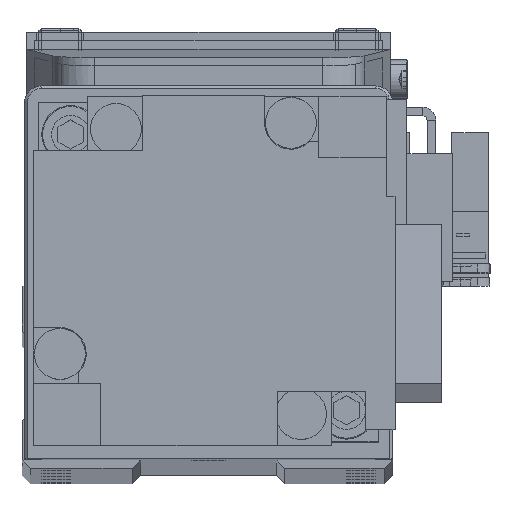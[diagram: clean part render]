
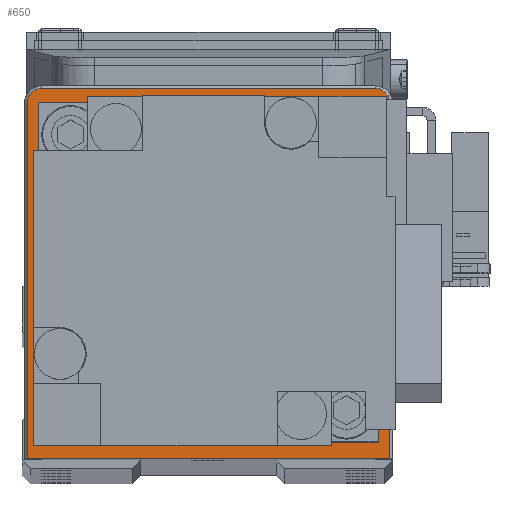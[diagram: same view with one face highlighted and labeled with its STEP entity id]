
A CAD part, top view. The second image highlights one B-rep face of the part: STEP entity #650.
In plain terms, the highlighted planar face has unit normal (0, 0, 1).
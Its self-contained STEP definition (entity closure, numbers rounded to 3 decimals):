
#650 = ADVANCED_FACE ( 'NONE', ( #10486, #15271 ), #26040, .T. ) ;
#654 = DIRECTION ( 'NONE',  ( 0., 1., 0. ) ) ;
#661 = VERTEX_POINT ( 'NONE', #5162 ) ;
#1106 = CARTESIAN_POINT ( 'NONE',  ( -21.7, -22., 26.5 ) ) ;
#1513 = VERTEX_POINT ( 'NONE', #23658 ) ;
#1629 = EDGE_CURVE ( 'NONE', #661, #5317, #31264, .T. ) ;
#1910 = VERTEX_POINT ( 'NONE', #19938 ) ;
#2035 = EDGE_LOOP ( 'NONE', ( #34198, #10287 ) ) ;
#2484 = ORIENTED_EDGE ( 'NONE', *, *, #34949, .T. ) ;
#2516 = DIRECTION ( 'NONE',  ( 1., 0., 0. ) ) ;
#2667 = AXIS2_PLACEMENT_3D ( 'NONE', #32806, #32982, #17083 ) ;
#3046 = ORIENTED_EDGE ( 'NONE', *, *, #17243, .T. ) ;
#4067 = EDGE_CURVE ( 'NONE', #14643, #30946, #25514, .T. ) ;
#4735 = CARTESIAN_POINT ( 'NONE',  ( -19.7, 21.7, 26.5 ) ) ;
#5162 = CARTESIAN_POINT ( 'NONE',  ( 19.7, 21.7, 26.5 ) ) ;
#5292 = DIRECTION ( 'NONE',  ( 0., 0., 1. ) ) ;
#5317 = VERTEX_POINT ( 'NONE', #30647 ) ;
#6248 = LINE ( 'NONE', #1106, #31252 ) ;
#6606 = VECTOR ( 'NONE', #654, 1000. ) ;
#6980 = EDGE_LOOP ( 'NONE', ( #2484, #24164, #12068, #8547, #11037, #3046 ) ) ;
#8547 = ORIENTED_EDGE ( 'NONE', *, *, #1629, .T. ) ;
#9988 = CARTESIAN_POINT ( 'NONE',  ( -19.7, 20., 26.5 ) ) ;
#10269 = EDGE_CURVE ( 'NONE', #11978, #1910, #14640, .T. ) ;
#10287 = ORIENTED_EDGE ( 'NONE', *, *, #4067, .F. ) ;
#10486 = FACE_OUTER_BOUND ( 'NONE', #6980, .T. ) ;
#10723 = EDGE_CURVE ( 'NONE', #30946, #14643, #14013, .T. ) ;
#11037 = ORIENTED_EDGE ( 'NONE', *, *, #16176, .T. ) ;
#11753 = CARTESIAN_POINT ( 'NONE',  ( 10., 0., 26.5 ) ) ;
#11978 = VERTEX_POINT ( 'NONE', #20235 ) ;
#12024 = CIRCLE ( 'NONE', #13722, 1.7 ) ;
#12068 = ORIENTED_EDGE ( 'NONE', *, *, #32195, .T. ) ;
#12395 = CARTESIAN_POINT ( 'NONE',  ( 0., 0., 26.5 ) ) ;
#12481 = CARTESIAN_POINT ( 'NONE',  ( -10., 0., 26.5 ) ) ;
#12892 = DIRECTION ( 'NONE',  ( -1., 0., 0. ) ) ;
#13710 = AXIS2_PLACEMENT_3D ( 'NONE', #12395, #23172, #20695 ) ;
#13722 = AXIS2_PLACEMENT_3D ( 'NONE', #9988, #18142, #26071 ) ;
#14013 = CIRCLE ( 'NONE', #2667, 10. ) ;
#14640 = LINE ( 'NONE', #24885, #6606 ) ;
#14643 = VERTEX_POINT ( 'NONE', #11753 ) ;
#14919 = DIRECTION ( 'NONE',  ( 1., 0., 0. ) ) ;
#15271 = FACE_BOUND ( 'NONE', #2035, .T. ) ;
#16108 = DIRECTION ( 'NONE',  ( 1., 0., 0. ) ) ;
#16176 = EDGE_CURVE ( 'NONE', #5317, #26721, #12024, .T. ) ;
#17083 = DIRECTION ( 'NONE',  ( 1., 0., 0. ) ) ;
#17243 = EDGE_CURVE ( 'NONE', #26721, #1513, #23563, .T. ) ;
#17578 = CARTESIAN_POINT ( 'NONE',  ( -21.4, -22., 26.5 ) ) ;
#18142 = DIRECTION ( 'NONE',  ( 0., 0., 1. ) ) ;
#18623 = CARTESIAN_POINT ( 'NONE',  ( 0., 0., 26.5 ) ) ;
#19938 = CARTESIAN_POINT ( 'NONE',  ( 21.4, 20., 26.5 ) ) ;
#20235 = CARTESIAN_POINT ( 'NONE',  ( 21.4, -22., 26.5 ) ) ;
#20695 = DIRECTION ( 'NONE',  ( 1., 0., 0. ) ) ;
#21530 = CIRCLE ( 'NONE', #30568, 1.7 ) ;
#21595 = AXIS2_PLACEMENT_3D ( 'NONE', #18623, #23393, #2516 ) ;
#23172 = DIRECTION ( 'NONE',  ( 0., 0., 1. ) ) ;
#23337 = VECTOR ( 'NONE', #25505, 1000. ) ;
#23393 = DIRECTION ( 'NONE',  ( 0., 0., 1. ) ) ;
#23563 = LINE ( 'NONE', #17578, #23337 ) ;
#23658 = CARTESIAN_POINT ( 'NONE',  ( -21.4, -22., 26.5 ) ) ;
#24164 = ORIENTED_EDGE ( 'NONE', *, *, #10269, .T. ) ;
#24885 = CARTESIAN_POINT ( 'NONE',  ( 21.4, 20., 26.5 ) ) ;
#24938 = CARTESIAN_POINT ( 'NONE',  ( -21.4, 20., 26.5 ) ) ;
#25505 = DIRECTION ( 'NONE',  ( 0., -1., 0. ) ) ;
#25514 = CIRCLE ( 'NONE', #13710, 10. ) ;
#26040 = PLANE ( 'NONE',  #21595 ) ;
#26071 = DIRECTION ( 'NONE',  ( 1., 0., 0. ) ) ;
#26721 = VERTEX_POINT ( 'NONE', #24938 ) ;
#29534 = CARTESIAN_POINT ( 'NONE',  ( 19.7, 20., 26.5 ) ) ;
#30568 = AXIS2_PLACEMENT_3D ( 'NONE', #29534, #5292, #16108 ) ;
#30579 = VECTOR ( 'NONE', #12892, 1000. ) ;
#30647 = CARTESIAN_POINT ( 'NONE',  ( -19.7, 21.7, 26.5 ) ) ;
#30946 = VERTEX_POINT ( 'NONE', #12481 ) ;
#31252 = VECTOR ( 'NONE', #14919, 1000. ) ;
#31264 = LINE ( 'NONE', #4735, #30579 ) ;
#32195 = EDGE_CURVE ( 'NONE', #1910, #661, #21530, .T. ) ;
#32806 = CARTESIAN_POINT ( 'NONE',  ( 0., 0., 26.5 ) ) ;
#32982 = DIRECTION ( 'NONE',  ( 0., 0., 1. ) ) ;
#34198 = ORIENTED_EDGE ( 'NONE', *, *, #10723, .F. ) ;
#34949 = EDGE_CURVE ( 'NONE', #1513, #11978, #6248, .T. ) ;
